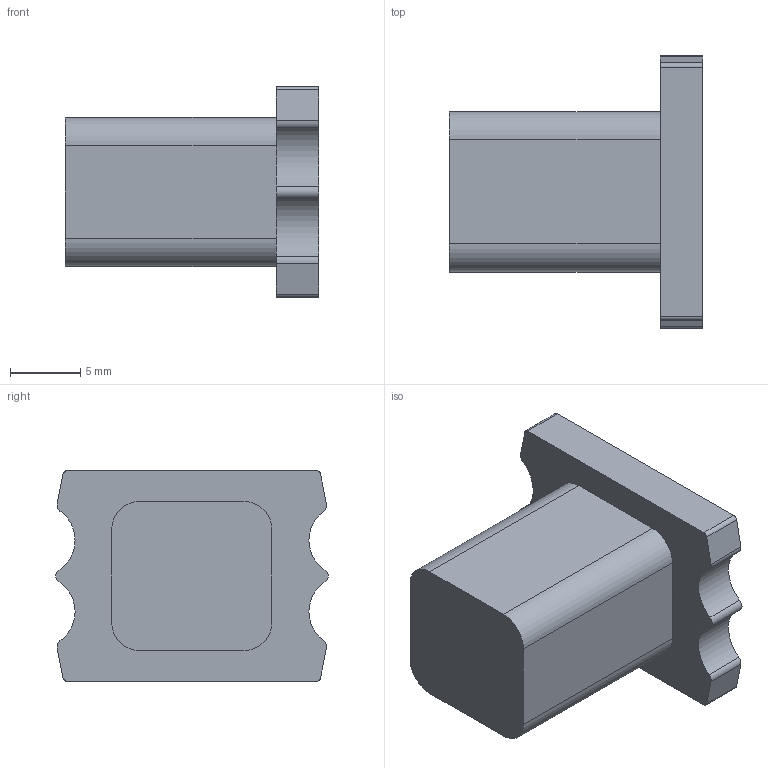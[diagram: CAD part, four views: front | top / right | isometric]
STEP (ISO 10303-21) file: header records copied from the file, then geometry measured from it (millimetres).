
FILE_DESCRIPTION (( 'STEP AP203' ), '1' );
FILE_NAME ('834-242.STEP', '2016-03-17T19:40:51', ( '' ), ( '' ), 'SwSTEP 2.0', 'SolidWorks 2015', '' );
FILE_SCHEMA (( 'CONFIG_CONTROL_DESIGN' ));
Length unit declared in the file: inch
Products named in the file (1): 834-242
Bounding box: 18 x 19.37 x 15 mm (x, y, z)
Volume: 2569.3 mm3; surface area: 1356.8 mm2
Topology: 1 solids, 1 shells, 32 faces, 87 edges, 58 vertices
Faces by surface type: cylinder 19, plane 13
Entity records: 1108 total; most frequent: DIRECTION 191, CARTESIAN_POINT 178, ORIENTED_EDGE 174, EDGE_CURVE 87, AXIS2_PLACEMENT_3D 71, VERTEX_POINT 58, LINE 49, VECTOR 49
